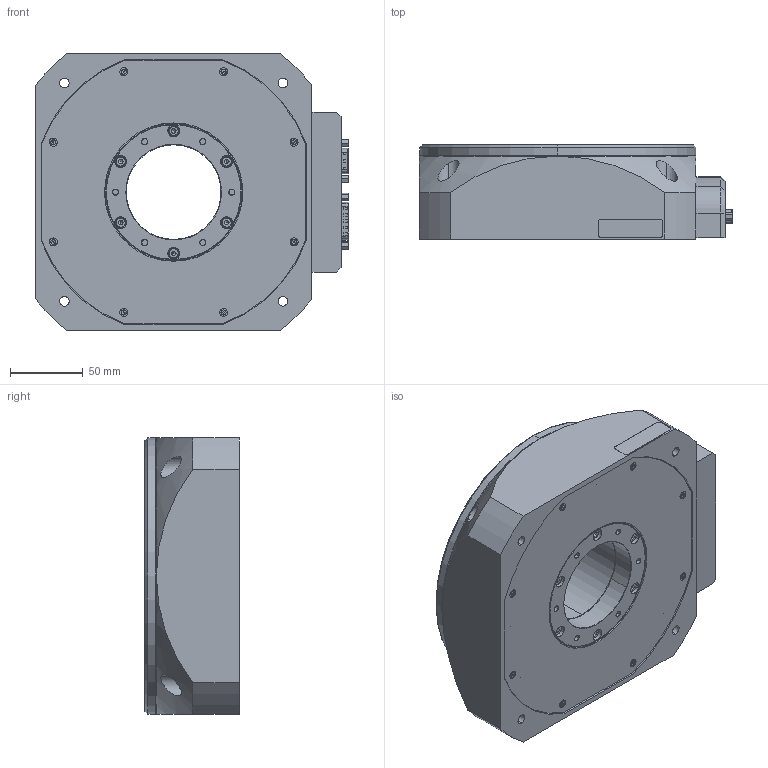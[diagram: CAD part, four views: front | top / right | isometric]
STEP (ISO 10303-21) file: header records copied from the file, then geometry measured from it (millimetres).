
FILE_DESCRIPTION (( 'STEP AP214' ), '1' );
FILE_NAME ('RTS-DD-200-L-D-A-S-0-00.STEP', '2013-11-15T18:19:15', ( 'Lab' ), ( '' ), 'SwSTEP 2.0', 'SolidWorks 2014', '' );
FILE_SCHEMA (( 'AUTOMOTIVE_DESIGN' ));
Length unit declared in the file: millimetre
Products named in the file (23): 10020_file_export41; 10014_file_export40; 10001_file_export65; 10023_file_export64; 10019_file_export3; 10017_file_export2; 10010_file_export7; 10025_file_export53; 10027_file_export11; 10024_file_export56; 10009_file_export54; RTS-DD-200-L-D-A-S-0-00
Assembly tree (29 placements, depth 2):
  RTS-DD-200-L-D-A-S-0-00
    10009_file_export54  x8
    10024_file_export56
    10025_file_export53
    10010_file_export7
    10010_file_export7
    10010_file_export7
    10010_file_export7
    10017_file_export2
    10019_file_export3
    10023_file_export64
    10001_file_export65
    10014_file_export40
    10020_file_export41
    10027_file_export11
    10027_file_export11
    10027_file_export11
    10027_file_export11
    10027_file_export11
    10027_file_export11
    10027_file_export11
    10027_file_export11
    10027_file_export11
Bounding box: 215.2 x 65 x 190.13 mm (x, y, z)
Volume: 1487043.3 mm3; surface area: 266885.8 mm2
Topology: 29 solids, 30 shells, 1297 faces, 2886 edges, 1771 vertices
Faces by surface type: plane 625, cylinder 348, bspline 170, cone 136, torus 14, sphere 4
Entity records: 38828 total; most frequent: CARTESIAN_POINT 12079, DIRECTION 5226, ORIENTED_EDGE 5132, EDGE_CURVE 2566, AXIS2_PLACEMENT_3D 1906, VERTEX_POINT 1603, LINE 1414, VECTOR 1414
